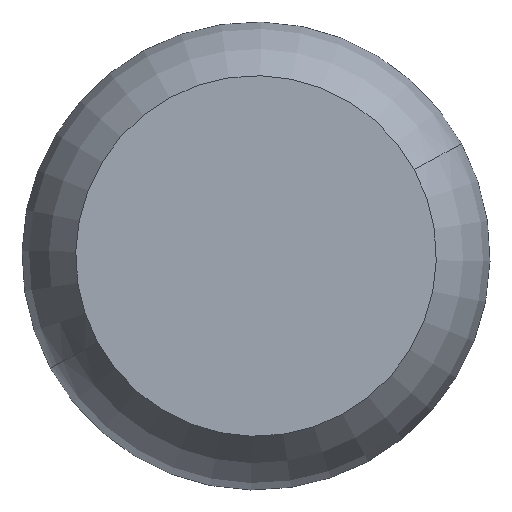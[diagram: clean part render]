
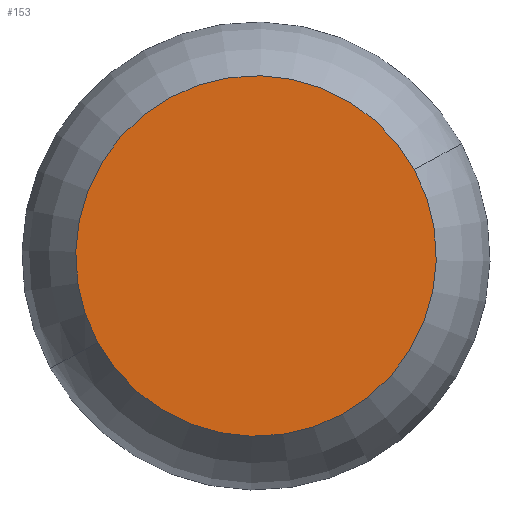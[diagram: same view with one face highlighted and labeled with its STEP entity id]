
A CAD part, front view. The second image highlights one B-rep face of the part: STEP entity #153.
In plain terms, the highlighted planar face has unit normal (0, -1, 0).
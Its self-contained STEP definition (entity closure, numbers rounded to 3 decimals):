
#66=CARTESIAN_POINT('Axis2P3D Location',(0.,0.,0.)) ;
#70=CARTESIAN_POINT('Vertex',(97.412,0.,53.216)) ;
#72=CARTESIAN_POINT('Vertex',(-97.412,0.,-53.216)) ;
#127=CARTESIAN_POINT('Axis2P3D Location',(0.,0.,0.)) ;
#144=CARTESIAN_POINT('Axis2P3D Location',(0.,0.,0.)) ;
#67=DIRECTION('Axis2P3D Direction',(0.,-1.,0.)) ;
#128=DIRECTION('Axis2P3D Direction',(0.,-1.,0.)) ;
#145=DIRECTION('Axis2P3D Direction',(0.,-1.,0.)) ;
#146=DIRECTION('Axis2P3D XDirection',(1.,0.,0.)) ;
#68=AXIS2_PLACEMENT_3D('Circle Axis2P3D',#66,#67,$) ;
#129=AXIS2_PLACEMENT_3D('Circle Axis2P3D',#127,#128,$) ;
#147=AXIS2_PLACEMENT_3D('Plane Axis2P3D',#144,#145,#146) ;
#150=ORIENTED_EDGE('',*,*,#74,.T.) ;
#151=ORIENTED_EDGE('',*,*,#131,.T.) ;
#153=ADVANCED_FACE('PartBody',(#152),#148,.T.) ;
#69=CIRCLE('generated circle',#68,111.) ;
#130=CIRCLE('generated circle',#129,111.) ;
#74=EDGE_CURVE('',#71,#73,#69,.T.) ;
#131=EDGE_CURVE('',#73,#71,#130,.T.) ;
#149=EDGE_LOOP('',(#150,#151)) ;
#152=FACE_OUTER_BOUND('',#149,.T.) ;
#148=PLANE('',#147) ;
#71=VERTEX_POINT('',#70) ;
#73=VERTEX_POINT('',#72) ;
